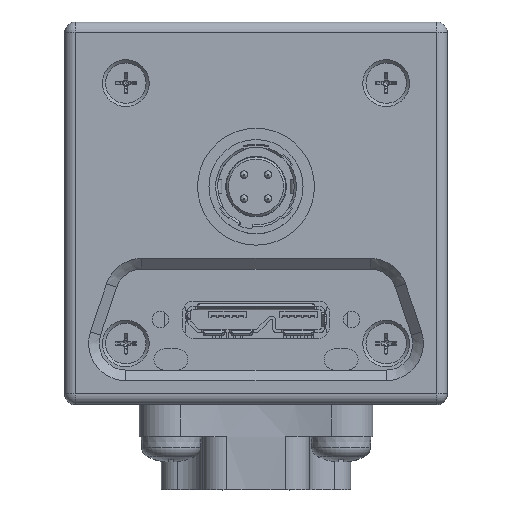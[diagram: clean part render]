
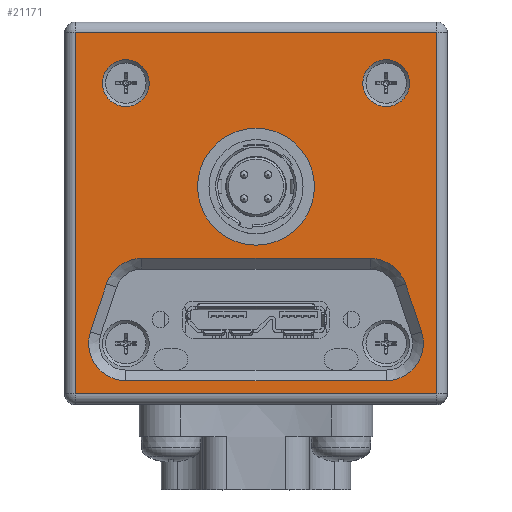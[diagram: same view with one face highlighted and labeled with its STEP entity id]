
A CAD part, top view. The second image highlights one B-rep face of the part: STEP entity #21171.
In plain terms, the highlighted planar face has unit normal (0, 0, 1).
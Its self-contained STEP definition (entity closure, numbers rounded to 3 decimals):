
#704=LINE('',#36013,#2422);
#706=LINE('',#36023,#2424);
#710=LINE('',#36036,#2428);
#714=LINE('',#36042,#2432);
#720=LINE('',#36063,#2438);
#721=LINE('',#36067,#2439);
#722=LINE('',#36071,#2440);
#723=LINE('',#36075,#2441);
#2422=VECTOR('',#26648,10.);
#2424=VECTOR('',#26660,10.);
#2428=VECTOR('',#26676,10.);
#2432=VECTOR('',#26684,10.);
#2438=VECTOR('',#26708,10.);
#2439=VECTOR('',#26711,10.);
#2440=VECTOR('',#26714,10.);
#2441=VECTOR('',#26717,10.);
#4452=FACE_BOUND('',#6275,.T.);
#4453=FACE_BOUND('',#6276,.T.);
#4454=FACE_BOUND('',#6277,.T.);
#4455=FACE_BOUND('',#6278,.T.);
#5014=FACE_OUTER_BOUND('',#6274,.T.);
#6274=EDGE_LOOP('',(#15283,#15284,#15285,#15286));
#6275=EDGE_LOOP('',(#15287));
#6276=EDGE_LOOP('',(#15288));
#6277=EDGE_LOOP('',(#15289));
#6278=EDGE_LOOP('',(#15290,#15291,#15292,#15293,#15294,#15295,#15296,#15297));
#7494=CIRCLE('',#22906,5.5);
#7518=CIRCLE('',#22950,2.2);
#7519=CIRCLE('',#22953,2.2);
#7546=CIRCLE('',#23005,3.5);
#7547=CIRCLE('',#23006,3.5);
#7548=CIRCLE('',#23007,3.5);
#7549=CIRCLE('',#23008,3.5);
#8779=VERTEX_POINT('',#35777);
#8853=VERTEX_POINT('',#35957);
#8854=VERTEX_POINT('',#35961);
#8866=VERTEX_POINT('',#35999);
#8871=VERTEX_POINT('',#36009);
#8872=VERTEX_POINT('',#36016);
#8875=VERTEX_POINT('',#36029);
#8882=VERTEX_POINT('',#36061);
#8883=VERTEX_POINT('',#36062);
#8884=VERTEX_POINT('',#36064);
#8885=VERTEX_POINT('',#36066);
#8886=VERTEX_POINT('',#36068);
#8887=VERTEX_POINT('',#36070);
#8888=VERTEX_POINT('',#36072);
#8889=VERTEX_POINT('',#36074);
#11116=EDGE_CURVE('',#8779,#8779,#7494,.T.);
#11202=EDGE_CURVE('',#8853,#8853,#7518,.T.);
#11203=EDGE_CURVE('',#8854,#8854,#7519,.T.);
#11224=EDGE_CURVE('',#8866,#8871,#704,.T.);
#11229=EDGE_CURVE('',#8872,#8866,#706,.T.);
#11236=EDGE_CURVE('',#8875,#8872,#710,.T.);
#11240=EDGE_CURVE('',#8871,#8875,#714,.T.);
#11250=EDGE_CURVE('',#8882,#8883,#720,.T.);
#11251=EDGE_CURVE('',#8884,#8882,#7546,.T.);
#11252=EDGE_CURVE('',#8885,#8884,#721,.T.);
#11253=EDGE_CURVE('',#8886,#8885,#7547,.T.);
#11254=EDGE_CURVE('',#8887,#8886,#722,.T.);
#11255=EDGE_CURVE('',#8888,#8887,#7548,.T.);
#11256=EDGE_CURVE('',#8889,#8888,#723,.T.);
#11257=EDGE_CURVE('',#8883,#8889,#7549,.T.);
#15283=ORIENTED_EDGE('',*,*,#11224,.F.);
#15284=ORIENTED_EDGE('',*,*,#11229,.F.);
#15285=ORIENTED_EDGE('',*,*,#11236,.F.);
#15286=ORIENTED_EDGE('',*,*,#11240,.F.);
#15287=ORIENTED_EDGE('',*,*,#11116,.T.);
#15288=ORIENTED_EDGE('',*,*,#11202,.T.);
#15289=ORIENTED_EDGE('',*,*,#11203,.T.);
#15290=ORIENTED_EDGE('',*,*,#11250,.F.);
#15291=ORIENTED_EDGE('',*,*,#11251,.F.);
#15292=ORIENTED_EDGE('',*,*,#11252,.F.);
#15293=ORIENTED_EDGE('',*,*,#11253,.F.);
#15294=ORIENTED_EDGE('',*,*,#11254,.F.);
#15295=ORIENTED_EDGE('',*,*,#11255,.F.);
#15296=ORIENTED_EDGE('',*,*,#11256,.F.);
#15297=ORIENTED_EDGE('',*,*,#11257,.F.);
#19239=PLANE('',#23004);
#21171=ADVANCED_FACE('',(#5014,#4452,#4453,#4454,#4455),#19239,.F.);
#22906=AXIS2_PLACEMENT_3D('',#35778,#26428,#26429);
#22950=AXIS2_PLACEMENT_3D('',#35958,#26578,#26579);
#22953=AXIS2_PLACEMENT_3D('',#35962,#26584,#26585);
#23004=AXIS2_PLACEMENT_3D('',#36060,#26706,#26707);
#23005=AXIS2_PLACEMENT_3D('',#36065,#26709,#26710);
#23006=AXIS2_PLACEMENT_3D('',#36069,#26712,#26713);
#23007=AXIS2_PLACEMENT_3D('',#36073,#26715,#26716);
#23008=AXIS2_PLACEMENT_3D('',#36076,#26718,#26719);
#26428=DIRECTION('center_axis',(0.,0.,
-1.));
#26429=DIRECTION('ref_axis',(1.,0.,0.));
#26578=DIRECTION('center_axis',(0.,0.,
-1.));
#26579=DIRECTION('ref_axis',(-1.,0.,0.));
#26584=DIRECTION('center_axis',(0.,0.,
-1.));
#26585=DIRECTION('ref_axis',(-1.,0.,0.));
#26648=DIRECTION('',(-1.,0.,0.));
#26660=DIRECTION('',(0.,-1.,0.));
#26676=DIRECTION('',(1.,0.,0.));
#26684=DIRECTION('',(0.,1.,0.));
#26706=DIRECTION('center_axis',(0.,0.,
-1.));
#26707=DIRECTION('ref_axis',(1.,0.,0.));
#26708=DIRECTION('',(1.,0.,0.));
#26709=DIRECTION('center_axis',(0.,0.,
1.));
#26710=DIRECTION('ref_axis',(-0.949,0.316,0.));
#26711=DIRECTION('',(-0.316,-0.949,0.));
#26712=DIRECTION('center_axis',(0.,0.,
1.));
#26713=DIRECTION('ref_axis',(0.,1.,0.));
#26714=DIRECTION('',(-1.,0.,0.));
#26715=DIRECTION('center_axis',(0.,0.,
1.));
#26716=DIRECTION('ref_axis',(0.949,0.316,0.));
#26717=DIRECTION('',(-0.316,0.949,0.));
#26718=DIRECTION('center_axis',(0.,0.,
1.));
#26719=DIRECTION('ref_axis',(0.,-1.,0.));
#35777=CARTESIAN_POINT('',(5.5,2.5,23.));
#35778=CARTESIAN_POINT('Origin',(0.,2.5,23.));
#35957=CARTESIAN_POINT('',(10.05,12.25,23.));
#35958=CARTESIAN_POINT('Origin',(12.25,12.25,23.));
#35961=CARTESIAN_POINT('',(-14.45,12.25,23.));
#35962=CARTESIAN_POINT('Origin',(-12.25,12.25,23.));
#35999=CARTESIAN_POINT('',(17.,-17.,23.));
#36009=CARTESIAN_POINT('',(-17.,-17.,23.));
#36013=CARTESIAN_POINT('',(-9.,-17.,23.));
#36016=CARTESIAN_POINT('',(17.,17.,23.));
#36023=CARTESIAN_POINT('',(17.,-9.,23.));
#36029=CARTESIAN_POINT('',(-17.,17.,23.));
#36036=CARTESIAN_POINT('',(9.,17.,23.));
#36042=CARTESIAN_POINT('',(-17.,9.,23.));
#36060=CARTESIAN_POINT('Origin',(0.,0.,23.));
#36061=CARTESIAN_POINT('',(-12.25,-15.75,23.));
#36062=CARTESIAN_POINT('',(12.25,-15.75,23.));
#36063=CARTESIAN_POINT('',(0.,-15.75,23.));
#36064=CARTESIAN_POINT('',(-15.57,-11.143,23.));
#36065=CARTESIAN_POINT('Origin',(-12.25,-12.25,23.));
#36066=CARTESIAN_POINT('',(-14.07,-6.643,23.));
#36067=CARTESIAN_POINT('',(-13.12,-3.793,23.));
#36068=CARTESIAN_POINT('',(-10.75,-4.25,23.));
#36069=CARTESIAN_POINT('Origin',(-10.75,-7.75,23.));
#36070=CARTESIAN_POINT('',(10.75,-4.25,23.));
#36071=CARTESIAN_POINT('',(-5.375,-4.25,23.));
#36072=CARTESIAN_POINT('',(14.07,-6.643,23.));
#36073=CARTESIAN_POINT('Origin',(10.75,-7.75,23.));
#36074=CARTESIAN_POINT('',(15.57,-11.143,23.));
#36075=CARTESIAN_POINT('',(12.37,-1.543,23.));
#36076=CARTESIAN_POINT('Origin',(12.25,-12.25,23.));
